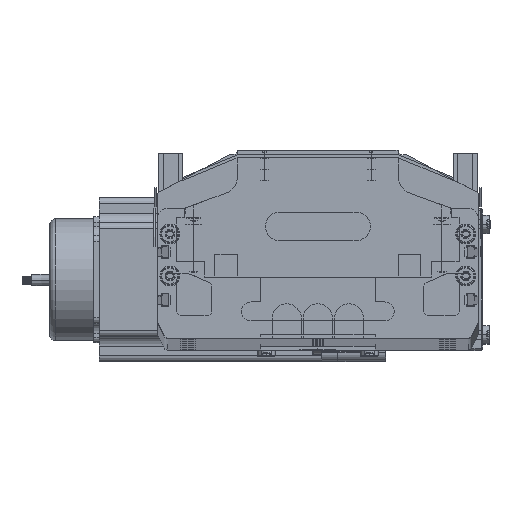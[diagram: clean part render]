
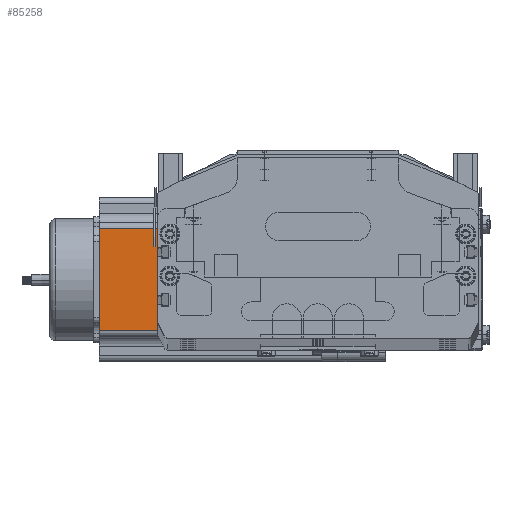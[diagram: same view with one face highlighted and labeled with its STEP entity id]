
A CAD part, top view. The second image highlights one B-rep face of the part: STEP entity #85258.
In plain terms, the highlighted planar face has unit normal (0, 0, 1) as drawn and (0, -1, 0) by its records, which use the part's own axes.
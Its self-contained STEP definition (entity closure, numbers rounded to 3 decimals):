
#6452 = DIRECTION ( 'NONE',  ( 0., 0., -1. ) ) ;
#6453 = VECTOR ( 'NONE', #6452, 1000. ) ;
#6455 = CARTESIAN_POINT ( 'NONE',  ( 16.16, 0., 116.5 ) ) ;
#6556 = CARTESIAN_POINT ( 'NONE',  ( 0., 0., 116.5 ) ) ;
#6558 = LINE ( 'NONE', #6556, #6745 ) ;
#6714 = CARTESIAN_POINT ( 'NONE',  ( 16.16, 0., 116.5 ) ) ;
#6736 = LINE ( 'NONE', #6455, #6453 ) ;
#6743 = DIRECTION ( 'NONE',  ( 1., 0., 0. ) ) ;
#6745 = VECTOR ( 'NONE', #6743, 1000. ) ;
#30177 = CARTESIAN_POINT ( 'NONE',  ( 16.16, 0., 0. ) ) ;
#30212 = DIRECTION ( 'NONE',  ( 0., 0., 1. ) ) ;
#30213 = DIRECTION ( 'NONE',  ( 0., 1., 0. ) ) ;
#30217 = PLANE ( 'NONE',  #30253 ) ;
#30219 = VECTOR ( 'NONE', #30255, 1000. ) ;
#30220 = CARTESIAN_POINT ( 'NONE',  ( 0., 0., 0. ) ) ;
#30230 = CARTESIAN_POINT ( 'NONE',  ( 0., 0., 116.5 ) ) ;
#30233 = FACE_OUTER_BOUND ( 'NONE', #85255, .T. ) ;
#30237 = CARTESIAN_POINT ( 'NONE',  ( 69.74, 0., 116.5 ) ) ;
#30239 = CARTESIAN_POINT ( 'NONE',  ( 69.74, 0., 0. ) ) ;
#30244 = LINE ( 'NONE', #30220, #30219 ) ;
#30253 = AXIS2_PLACEMENT_3D ( 'NONE', #30230, #30213, #30212 ) ;
#30254 = LINE ( 'NONE', #30260, #30259 ) ;
#30255 = DIRECTION ( 'NONE',  ( 1., 0., 0. ) ) ;
#30258 = DIRECTION ( 'NONE',  ( 0., 0., 1. ) ) ;
#30259 = VECTOR ( 'NONE', #30258, 1000. ) ;
#30260 = CARTESIAN_POINT ( 'NONE',  ( 69.74, 0., 116.5 ) ) ;
#85255 = EDGE_LOOP ( 'NONE', ( #85270, #85261, #85367, #85370 ) ) ;
#85257 = EDGE_CURVE ( 'NONE', #85268, #85259, #30244, .T. ) ;
#85258 = ADVANCED_FACE ( 'NONE', ( #30233 ), #30217, .F. ) ;
#85259 = VERTEX_POINT ( 'NONE', #30239 ) ;
#85260 = VERTEX_POINT ( 'NONE', #30237 ) ;
#85261 = ORIENTED_EDGE ( 'NONE', *, *, #85262, .T. ) ;
#85262 = EDGE_CURVE ( 'NONE', #85259, #85260, #30254, .T. ) ;
#85268 = VERTEX_POINT ( 'NONE', #30177 ) ;
#85270 = ORIENTED_EDGE ( 'NONE', *, *, #85257, .T. ) ;
#85364 = VERTEX_POINT ( 'NONE', #6714 ) ;
#85365 = EDGE_CURVE ( 'NONE', #85364, #85260, #6558, .T. ) ;
#85367 = ORIENTED_EDGE ( 'NONE', *, *, #85365, .F. ) ;
#85368 = EDGE_CURVE ( 'NONE', #85364, #85268, #6736, .T. ) ;
#85370 = ORIENTED_EDGE ( 'NONE', *, *, #85368, .T. ) ;
